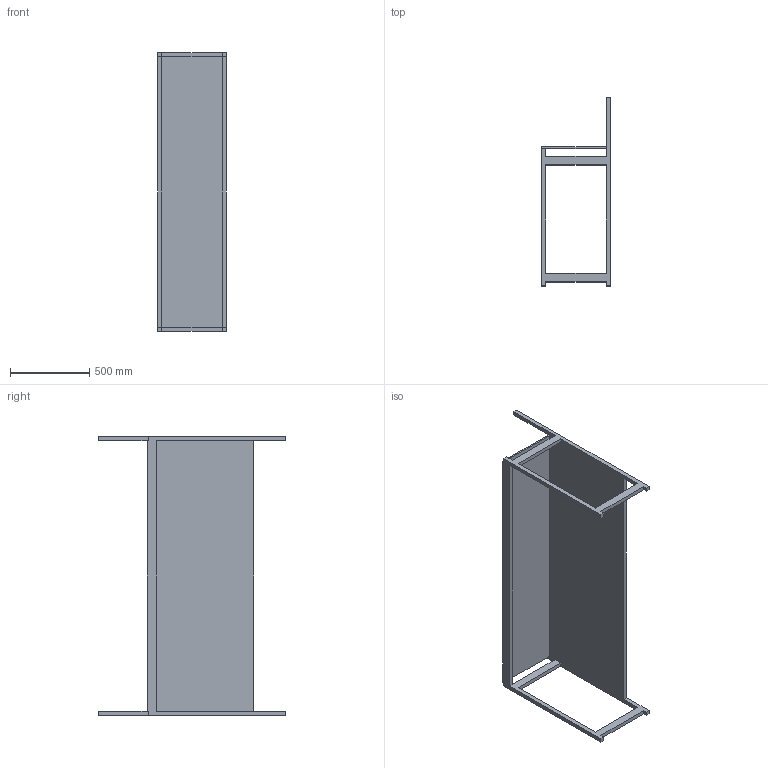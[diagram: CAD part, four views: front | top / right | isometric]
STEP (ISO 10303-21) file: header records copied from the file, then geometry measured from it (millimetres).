
FILE_DESCRIPTION(/* description */ (''),/* implementation_level */ '2;1');
FILE_NAME(/* name */ 'D:\fieldcad\driverstation.stp',/* time_stamp */ '2023-08-01T19:07:55-05:00',/* author */ ('User'),/* organization */ (''),/* preprocessor_version */ 'ST-DEVELOPER v18.1',/* originating_system */ 'Autodesk Inventor 2022',/* authorisation */ '');
FILE_SCHEMA (('AUTOMOTIVE_DESIGN { 1 0 10303 214 3 1 1 }'));
Length unit declared in the file: inch
Products named in the file (1): driverstation
Bounding box: 431.8 x 1181.1 x 1752.6 mm (x, y, z)
Volume: 41934496.8 mm3; surface area: 4536926.4 mm2
Topology: 1 solids, 1 shells, 40 faces, 124 edges, 78 vertices
Faces by surface type: plane 40
Entity records: 1412 total; most frequent: ORIENTED_EDGE 248, CARTESIAN_POINT 243, DIRECTION 206, LINE 124, VECTOR 124, EDGE_CURVE 124, VERTEX_POINT 78, EDGE_LOOP 42
